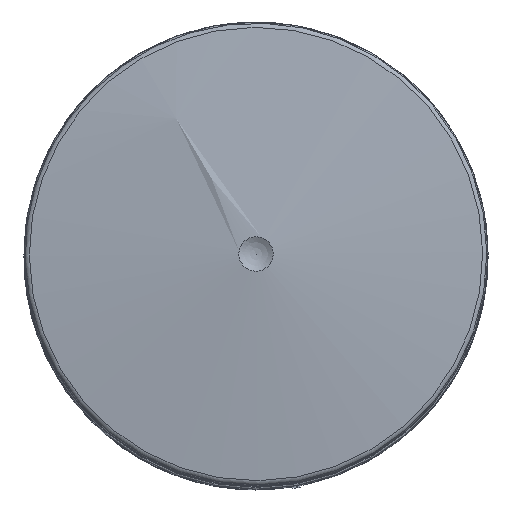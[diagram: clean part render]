
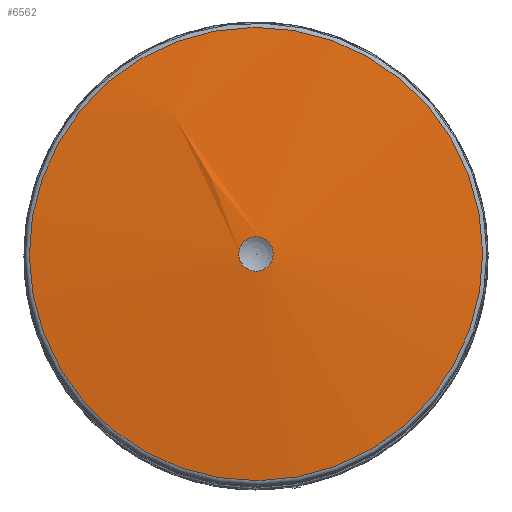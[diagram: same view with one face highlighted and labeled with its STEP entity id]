
A CAD part, top view. The second image highlights one B-rep face of the part: STEP entity #6562.
In plain terms, the highlighted spherical face has radius 220 mm.
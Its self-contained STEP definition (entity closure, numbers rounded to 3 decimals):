
#146=SPHERICAL_SURFACE('',#7257,220.);
#1588=FACE_OUTER_BOUND('',#1990,.T.);
#1990=EDGE_LOOP('',(#5799,#5800,#5801,#5802,#5803,#5804,#5805));
#2257=CIRCLE('',#7118,2.687);
#2258=CIRCLE('',#7119,2.687);
#2349=CIRCLE('',#7253,35.411);
#2350=CIRCLE('',#7254,35.411);
#2352=CIRCLE('',#7256,35.411);
#2353=CIRCLE('',#7258,220.);
#2887=VERTEX_POINT('',#12531);
#2888=VERTEX_POINT('',#12532);
#3001=VERTEX_POINT('',#14236);
#3002=VERTEX_POINT('',#14237);
#3003=VERTEX_POINT('',#14239);
#3725=EDGE_CURVE('',#2887,#2888,#2257,.T.);
#3726=EDGE_CURVE('',#2888,#2887,#2258,.T.);
#3941=EDGE_CURVE('',#3001,#3002,#2349,.T.);
#3942=EDGE_CURVE('',#3002,#3003,#2350,.T.);
#3944=EDGE_CURVE('',#3003,#3001,#2352,.T.);
#3945=EDGE_CURVE('',#3002,#2888,#2353,.T.);
#5799=ORIENTED_EDGE('',*,*,#3941,.F.);
#5800=ORIENTED_EDGE('',*,*,#3944,.F.);
#5801=ORIENTED_EDGE('',*,*,#3942,.F.);
#5802=ORIENTED_EDGE('',*,*,#3945,.T.);
#5803=ORIENTED_EDGE('',*,*,#3726,.T.);
#5804=ORIENTED_EDGE('',*,*,#3725,.T.);
#5805=ORIENTED_EDGE('',*,*,#3945,.F.);
#6562=ADVANCED_FACE('',(#1588),#146,.T.);
#7118=AXIS2_PLACEMENT_3D('',#12533,#8610,#8611);
#7119=AXIS2_PLACEMENT_3D('',#12534,#8612,#8613);
#7253=AXIS2_PLACEMENT_3D('',#14238,#8908,#8909);
#7254=AXIS2_PLACEMENT_3D('',#14240,#8910,#8911);
#7256=AXIS2_PLACEMENT_3D('',#14242,#8914,#8915);
#7257=AXIS2_PLACEMENT_3D('',#14243,#8916,#8917);
#7258=AXIS2_PLACEMENT_3D('',#14244,#8918,#8919);
#8610=DIRECTION('center_axis',(0.,0.,
-1.));
#8611=DIRECTION('ref_axis',(-0.862,-0.508,0.));
#8612=DIRECTION('center_axis',(0.,0.,
-1.));
#8613=DIRECTION('ref_axis',(-0.862,-0.508,0.));
#8908=DIRECTION('center_axis',(0.,0.,
-1.));
#8909=DIRECTION('ref_axis',(0.862,0.508,0.));
#8910=DIRECTION('center_axis',(0.,0.,
-1.));
#8911=DIRECTION('ref_axis',(0.862,0.508,0.));
#8914=DIRECTION('center_axis',(0.,0.,
-1.));
#8915=DIRECTION('ref_axis',(0.862,0.508,0.));
#8916=DIRECTION('center_axis',(0.,0.,
-1.));
#8917=DIRECTION('ref_axis',(0.508,-0.862,0.));
#8918=DIRECTION('center_axis',(0.862,0.508,0.));
#8919=DIRECTION('ref_axis',(-0.508,0.862,0.));
#12531=CARTESIAN_POINT('',(-2.315,-1.364,343.484));
#12532=CARTESIAN_POINT('',(-1.364,2.315,343.484));
#12533=CARTESIAN_POINT('Origin',(0.,0.,
343.484));
#12534=CARTESIAN_POINT('Origin',(0.,0.,
343.484));
#14236=CARTESIAN_POINT('',(-30.511,-17.972,340.631));
#14237=CARTESIAN_POINT('',(-17.972,30.511,340.631));
#14238=CARTESIAN_POINT('Origin',(0.,0.,
340.631));
#14239=CARTESIAN_POINT('',(17.972,-30.511,340.631));
#14240=CARTESIAN_POINT('Origin',(0.,0.,
340.631));
#14242=CARTESIAN_POINT('Origin',(0.,0.,
340.631));
#14243=CARTESIAN_POINT('Origin',(0.,0.,
123.5));
#14244=CARTESIAN_POINT('Origin',(0.,0.,
123.5));
